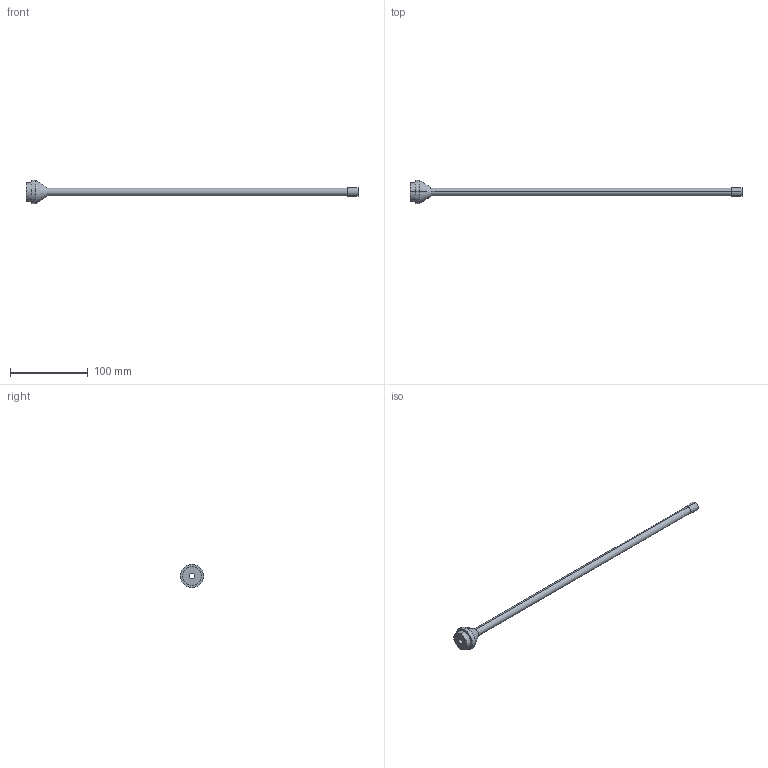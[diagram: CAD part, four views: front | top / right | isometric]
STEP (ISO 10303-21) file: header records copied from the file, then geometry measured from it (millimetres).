
FILE_DESCRIPTION (( 'STEP AP203' ), '1' );
FILE_NAME ('ER-AD40.STEP', '2005-09-05T02:04:44', ( '' ), ( '' ), 'SwSTEP 2.0', 'SolidWorks 2004073', '' );
FILE_SCHEMA (( 'CONFIG_CONTROL_DESIGN' ));
Length unit declared in the file: millimetre
Products named in the file (1): ER-AD40
Bounding box: 427 x 30 x 30 mm (x, y, z)
Volume: 27412 mm3; surface area: 24926.5 mm2
Topology: 1 solids, 1 shells, 17 faces, 34 edges, 22 vertices
Faces by surface type: cylinder 10, plane 5, cone 2
Entity records: 535 total; most frequent: DIRECTION 92, CARTESIAN_POINT 74, ORIENTED_EDGE 68, AXIS2_PLACEMENT_3D 40, EDGE_CURVE 34, EDGE_LOOP 22, VERTEX_POINT 22, CIRCLE 22
